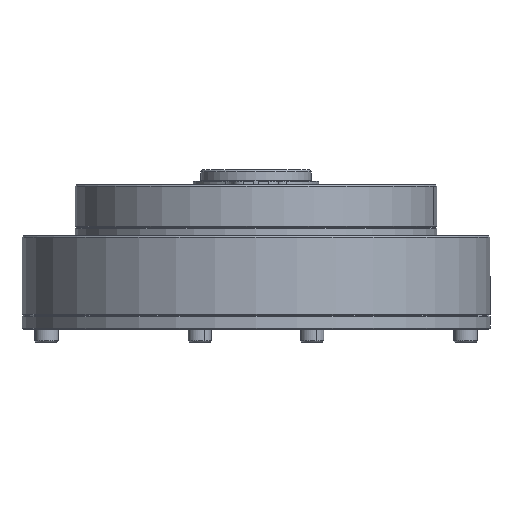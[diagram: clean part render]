
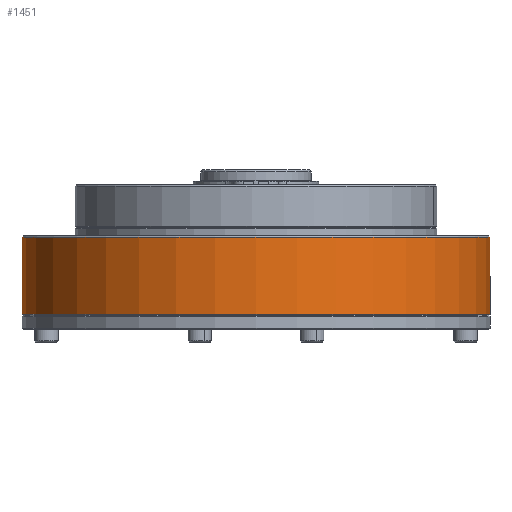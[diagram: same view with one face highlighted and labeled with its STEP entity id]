
A CAD part, front view. The second image highlights one B-rep face of the part: STEP entity #1451.
In plain terms, the highlighted cylindrical face has radius 55 mm (diameter 110 mm), a partial arc.
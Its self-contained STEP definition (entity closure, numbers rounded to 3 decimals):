
#490 = CARTESIAN_POINT ( 'NONE',  ( -56.457, 5.707, 88. ) ) ;
#1451 = ADVANCED_FACE ( 'NONE', ( #6826 ), #8728, .T. ) ;
#1569 = VERTEX_POINT ( 'NONE', #14093 ) ;
#2165 = DIRECTION ( 'NONE',  ( 0., 0., -1. ) ) ;
#3102 = VECTOR ( 'NONE', #13977, 1000. ) ;
#3207 = DIRECTION ( 'NONE',  ( 1., 0., 0. ) ) ;
#3302 = DIRECTION ( 'NONE',  ( 0., 0., -1. ) ) ;
#3386 = CARTESIAN_POINT ( 'NONE',  ( -1.457, 5.707, 85.7 ) ) ;
#3466 = VERTEX_POINT ( 'NONE', #3722 ) ;
#3722 = CARTESIAN_POINT ( 'NONE',  ( -56.457, 5.707, 67.6 ) ) ;
#3822 = AXIS2_PLACEMENT_3D ( 'NONE', #3386, #3302, #3207 ) ;
#3874 = CARTESIAN_POINT ( 'NONE',  ( -56.457, 5.707, 85.7 ) ) ;
#5017 = VERTEX_POINT ( 'NONE', #3874 ) ;
#5121 = CARTESIAN_POINT ( 'NONE',  ( 53.543, 5.707, 85.7 ) ) ;
#5764 = CIRCLE ( 'NONE', #3822, 55. ) ;
#6321 = DIRECTION ( 'NONE',  ( 0., 0., -1. ) ) ;
#6393 = EDGE_CURVE ( 'NONE', #3466, #1569, #10894, .T. ) ;
#6657 = EDGE_CURVE ( 'NONE', #5017, #3466, #11392, .T. ) ;
#6826 = FACE_OUTER_BOUND ( 'NONE', #12641, .T. ) ;
#7582 = VERTEX_POINT ( 'NONE', #5121 ) ;
#8728 = CYLINDRICAL_SURFACE ( 'NONE', #13634, 55. ) ;
#8969 = LINE ( 'NONE', #14097, #3102 ) ;
#9501 = DIRECTION ( 'NONE',  ( -1., 0., 0. ) ) ;
#9557 = CARTESIAN_POINT ( 'NONE',  ( -1.457, 5.707, 88. ) ) ;
#9590 = EDGE_CURVE ( 'NONE', #7582, #5017, #5764, .T. ) ;
#10330 = EDGE_CURVE ( 'NONE', #7582, #1569, #8969, .T. ) ;
#10446 = AXIS2_PLACEMENT_3D ( 'NONE', #13442, #13544, #13590 ) ;
#10894 = CIRCLE ( 'NONE', #10446, 55. ) ;
#11392 = LINE ( 'NONE', #490, #14025 ) ;
#12036 = ORIENTED_EDGE ( 'NONE', *, *, #10330, .F. ) ;
#12237 = ORIENTED_EDGE ( 'NONE', *, *, #9590, .T. ) ;
#12641 = EDGE_LOOP ( 'NONE', ( #12036, #12237, #14302, #14214 ) ) ;
#13442 = CARTESIAN_POINT ( 'NONE',  ( -1.457, 5.707, 67.6 ) ) ;
#13544 = DIRECTION ( 'NONE',  ( 0., 0., 1. ) ) ;
#13590 = DIRECTION ( 'NONE',  ( 1., 0., 0. ) ) ;
#13634 = AXIS2_PLACEMENT_3D ( 'NONE', #9557, #6321, #9501 ) ;
#13977 = DIRECTION ( 'NONE',  ( 0., 0., -1. ) ) ;
#14025 = VECTOR ( 'NONE', #2165, 1000. ) ;
#14093 = CARTESIAN_POINT ( 'NONE',  ( 53.543, 5.707, 67.6 ) ) ;
#14097 = CARTESIAN_POINT ( 'NONE',  ( 53.543, 5.707, 88. ) ) ;
#14214 = ORIENTED_EDGE ( 'NONE', *, *, #6393, .T. ) ;
#14302 = ORIENTED_EDGE ( 'NONE', *, *, #6657, .T. ) ;
